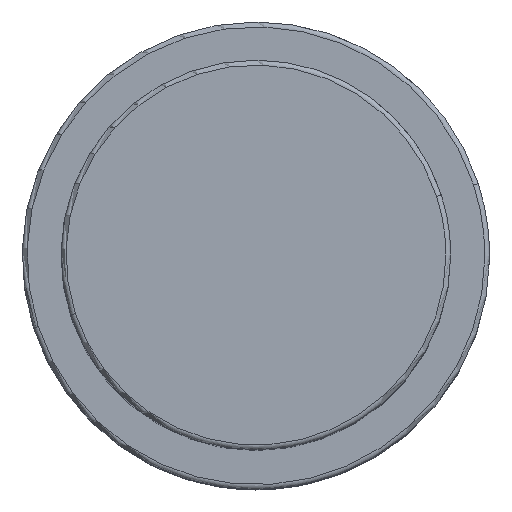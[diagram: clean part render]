
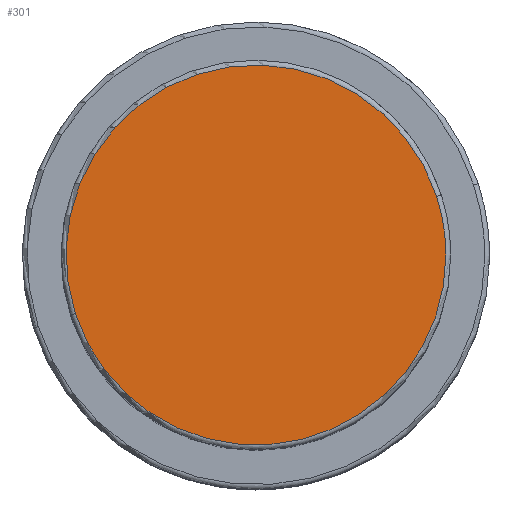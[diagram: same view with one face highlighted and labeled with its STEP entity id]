
A CAD part, top view. The second image highlights one B-rep face of the part: STEP entity #301.
In plain terms, the highlighted planar face has unit normal (0, 0, 1).
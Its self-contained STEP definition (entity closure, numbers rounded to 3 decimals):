
#267=CARTESIAN_POINT('',(19.5,0.0,58.5));
#268=VERTEX_POINT('',#267);
#269=CARTESIAN_POINT('',(18.546,6.026,58.5));
#270=VERTEX_POINT('',#269);
#271=CARTESIAN_POINT('',(0.0,0.0,58.5));
#272=DIRECTION('',(0.0,0.0,1.0));
#273=DIRECTION('',(1.0,0.0,0.0));
#274=AXIS2_PLACEMENT_3D('',#271,#272,#273);
#275=CIRCLE('',#274,19.5);
#276=EDGE_CURVE('no 821',#268,#270,#275,.T.);
#277=ORIENTED_EDGE('',*,*,#276,.T.);
#278=CARTESIAN_POINT('',(-18.546,-6.026,58.5));
#279=VERTEX_POINT('',#278);
#280=CARTESIAN_POINT('',(0.0,0.0,58.5));
#281=DIRECTION('',(0.0,0.0,1.0));
#282=DIRECTION('',(1.0,0.0,0.0));
#283=AXIS2_PLACEMENT_3D('',#280,#281,#282);
#284=CIRCLE('',#283,19.5);
#285=EDGE_CURVE('no 827',#270,#279,#284,.T.);
#286=ORIENTED_EDGE('',*,*,#285,.T.);
#287=CARTESIAN_POINT('',(0.0,0.0,58.5));
#288=DIRECTION('',(0.0,0.0,1.0));
#289=DIRECTION('',(1.0,0.0,0.0));
#290=AXIS2_PLACEMENT_3D('',#287,#288,#289);
#291=CIRCLE('',#290,19.5);
#292=EDGE_CURVE('no 831',#279,#268,#291,.T.);
#293=ORIENTED_EDGE('',*,*,#292,.T.);
#294=EDGE_LOOP('',(#277,#286,#293));
#295=FACE_OUTER_BOUND('',#294,.T.);
#296=CARTESIAN_POINT('',(0.0,0.0,58.5));
#297=DIRECTION('',(0.0,0.0,1.0));
#298=DIRECTION('',(1.0,0.0,0.0));
#299=AXIS2_PLACEMENT_3D('',#296,#297,#298);
#300=PLANE('',#299);
#301=ADVANCED_FACE('no 812',(#295),#300,.T.);
